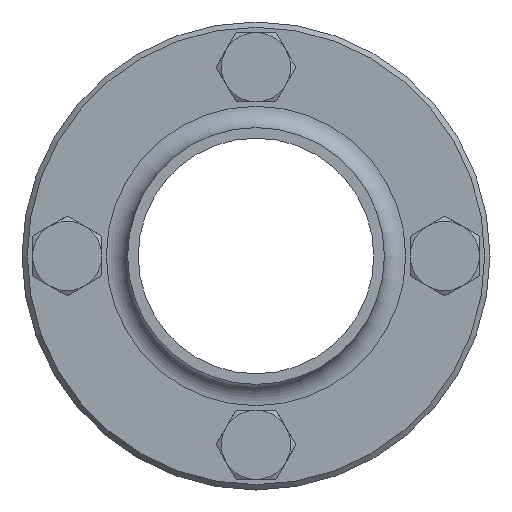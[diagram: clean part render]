
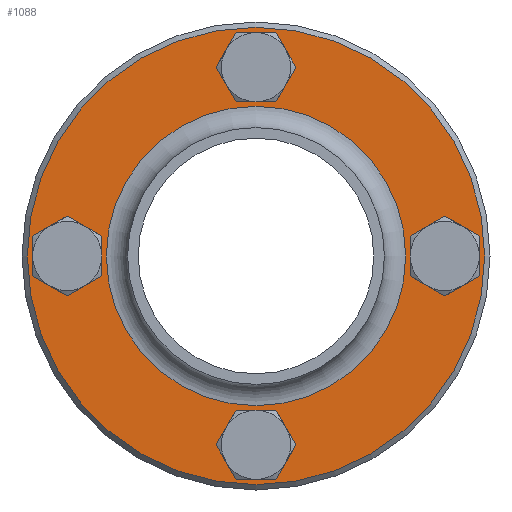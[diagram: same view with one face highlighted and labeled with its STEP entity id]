
A CAD part, front view. The second image highlights one B-rep face of the part: STEP entity #1088.
In plain terms, the highlighted planar face has unit normal (0, -1, 0).
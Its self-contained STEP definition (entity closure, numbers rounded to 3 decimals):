
#152=PLANE('',#1195);
#211=FACE_BOUND('',#381,.T.);
#212=FACE_BOUND('',#382,.T.);
#213=FACE_BOUND('',#383,.T.);
#214=FACE_BOUND('',#384,.T.);
#215=FACE_BOUND('',#385,.T.);
#280=FACE_OUTER_BOUND('',#380,.T.);
#380=EDGE_LOOP('',(#812));
#381=EDGE_LOOP('',(#813));
#382=EDGE_LOOP('',(#814));
#383=EDGE_LOOP('',(#815));
#384=EDGE_LOOP('',(#816));
#385=EDGE_LOOP('',(#817));
#491=CIRCLE('',#1155,4.5);
#493=CIRCLE('',#1158,4.5);
#495=CIRCLE('',#1161,4.5);
#497=CIRCLE('',#1164,4.5);
#513=CIRCLE('',#1194,43.);
#514=CIRCLE('',#1196,28.15);
#563=VERTEX_POINT('',#1674);
#565=VERTEX_POINT('',#1679);
#567=VERTEX_POINT('',#1684);
#569=VERTEX_POINT('',#1689);
#585=VERTEX_POINT('',#1735);
#586=VERTEX_POINT('',#1738);
#658=EDGE_CURVE('',#563,#563,#491,.T.);
#660=EDGE_CURVE('',#565,#565,#493,.T.);
#662=EDGE_CURVE('',#567,#567,#495,.T.);
#664=EDGE_CURVE('',#569,#569,#497,.T.);
#680=EDGE_CURVE('',#585,#585,#513,.T.);
#681=EDGE_CURVE('',#586,#586,#514,.T.);
#812=ORIENTED_EDGE('',*,*,#680,.T.);
#813=ORIENTED_EDGE('',*,*,#658,.T.);
#814=ORIENTED_EDGE('',*,*,#660,.T.);
#815=ORIENTED_EDGE('',*,*,#662,.T.);
#816=ORIENTED_EDGE('',*,*,#664,.T.);
#817=ORIENTED_EDGE('',*,*,#681,.F.);
#1088=ADVANCED_FACE('',(#280,#211,#212,#213,#214,#215),#152,.T.);
#1155=AXIS2_PLACEMENT_3D('',#1675,#1324,#1325);
#1158=AXIS2_PLACEMENT_3D('',#1680,#1330,#1331);
#1161=AXIS2_PLACEMENT_3D('',#1685,#1336,#1337);
#1164=AXIS2_PLACEMENT_3D('',#1690,#1342,#1343);
#1194=AXIS2_PLACEMENT_3D('',#1736,#1402,#1403);
#1195=AXIS2_PLACEMENT_3D('',#1737,#1404,#1405);
#1196=AXIS2_PLACEMENT_3D('',#1739,#1406,#1407);
#1324=DIRECTION('center_axis',(0.,1.,0.));
#1325=DIRECTION('ref_axis',(0.,0.,1.));
#1330=DIRECTION('center_axis',(0.,1.,0.));
#1331=DIRECTION('ref_axis',(1.,0.,0.));
#1336=DIRECTION('center_axis',(0.,1.,0.));
#1337=DIRECTION('ref_axis',(0.,0.,-1.));
#1342=DIRECTION('center_axis',(0.,1.,0.));
#1343=DIRECTION('ref_axis',(-1.,0.,0.));
#1402=DIRECTION('center_axis',(0.,-1.,0.));
#1403=DIRECTION('ref_axis',(1.,0.,0.));
#1404=DIRECTION('center_axis',(0.,-1.,0.));
#1405=DIRECTION('ref_axis',(0.,0.,-1.));
#1406=DIRECTION('center_axis',(0.,-1.,0.));
#1407=DIRECTION('ref_axis',(1.,0.,0.));
#1674=CARTESIAN_POINT('',(-35.5,35.,-4.5));
#1675=CARTESIAN_POINT('Origin',(-35.5,35.,0.));
#1679=CARTESIAN_POINT('',(-4.5,35.,35.5));
#1680=CARTESIAN_POINT('Origin',(0.,35.,35.5));
#1684=CARTESIAN_POINT('',(35.5,35.,4.5));
#1685=CARTESIAN_POINT('Origin',(35.5,35.,0.));
#1689=CARTESIAN_POINT('',(4.5,35.,-35.5));
#1690=CARTESIAN_POINT('Origin',(0.,35.,-35.5));
#1735=CARTESIAN_POINT('',(43.,35.,0.));
#1736=CARTESIAN_POINT('Origin',(0.,35.,0.));
#1737=CARTESIAN_POINT('Origin',(35.575,35.,0.));
#1738=CARTESIAN_POINT('',(28.15,35.,0.));
#1739=CARTESIAN_POINT('Origin',(0.,35.,0.));
